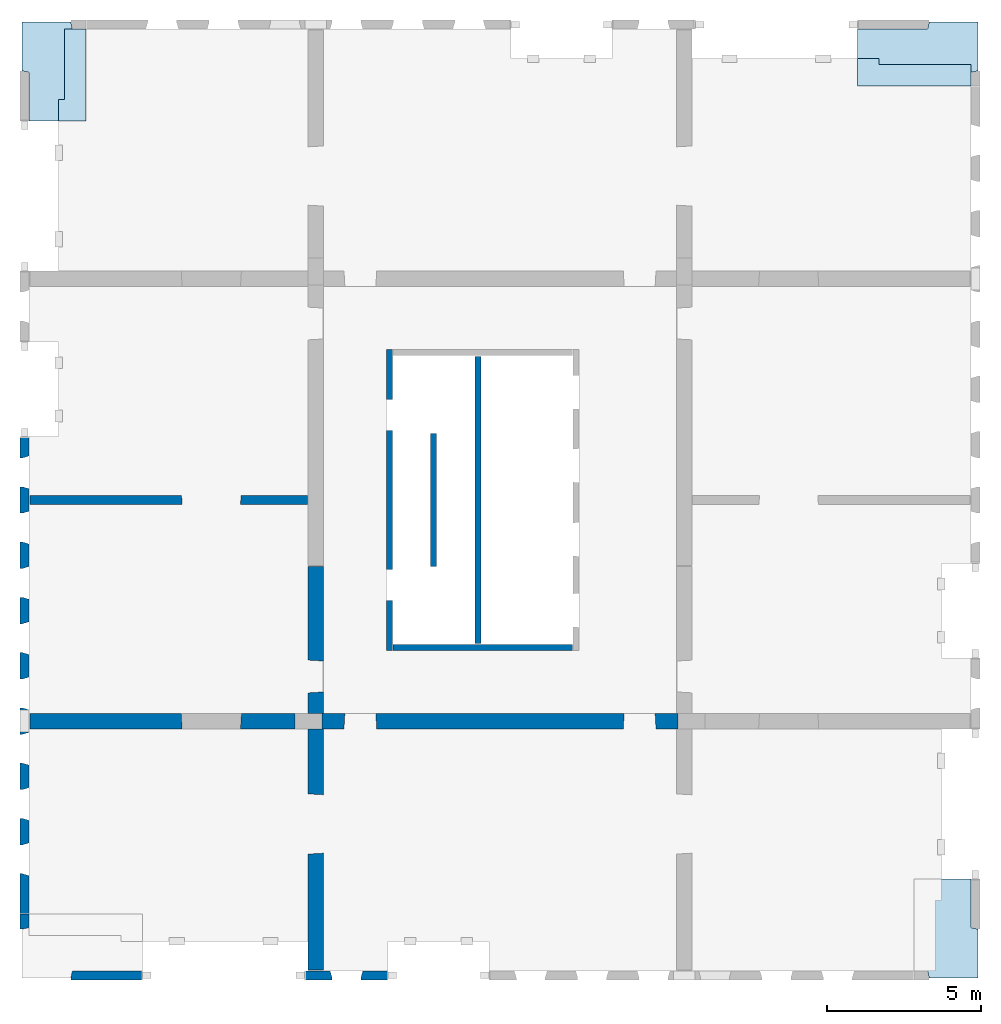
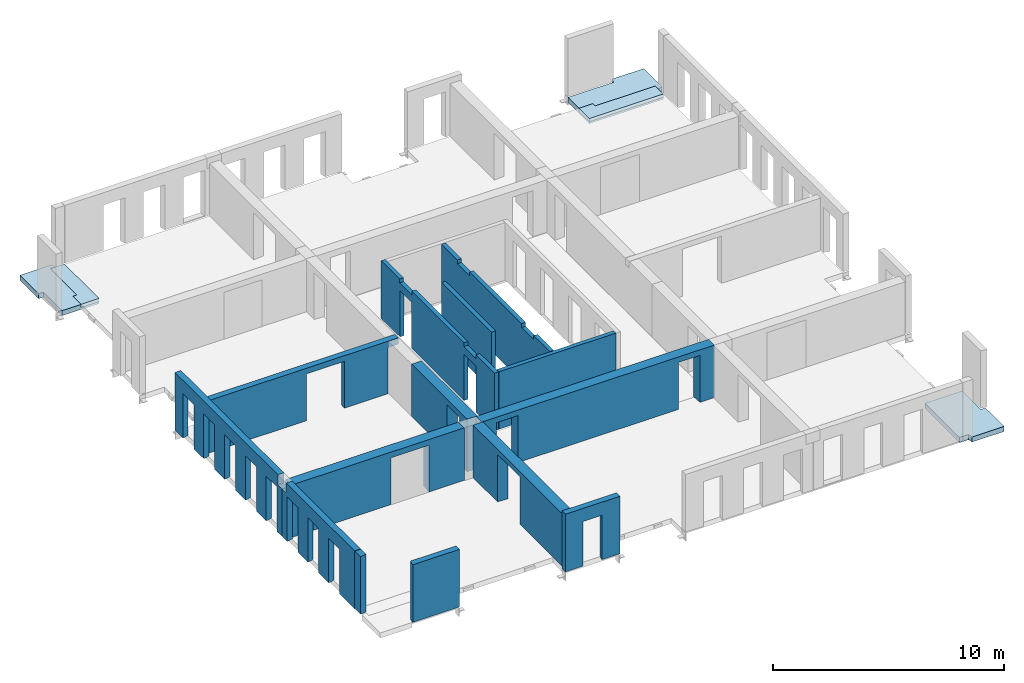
# One storey, part 2 of 4: 14 walls, 5 slabs, 32 openings.
"""IFC2X3 building model written with IfcOpenShell, lengths in millimetres."""

import ifcopenshell
import ifcopenshell.guid

model = None  # the IFC model being written
_history = None  # IfcOwnerHistory: only IFC2X3 demands one
_inside = {}  # id of a spatial element -> (the spatial element, [elements in it])
_under = {}  # id of a project, library or spatial element -> (it, [spatial elements below it])
_declared = {}  # id of a project -> (the project, [libraries it declares])
_typed = {}  # id of a type object -> (the type object, [elements of that type])
_made_of = {}  # id of a material, layer set ... -> (it, [elements and type objects made of it])


def new_model(schema):
    """Start an empty IFC model of exactly this schema.

    Asked for "IFC4X3", IfcOpenShell would pick the latest addendum, in which some entities
    have other attributes; the version numbers below select the first issue.
    IFC2X3 requires an IfcOwnerHistory on every rooted entity: one is made here for all.
    """
    global model, _history
    if schema == "IFC4X3":
        model = ifcopenshell.file(schema_version=(4, 3, 0, 0))
    else:
        model = ifcopenshell.file(schema=schema)
    _inside.clear()
    _under.clear()
    _declared.clear()
    _typed.clear()
    _made_of.clear()
    _history = None
    if model.schema == "IFC2X3":
        org = make("IfcOrganization", Name="unknown")
        user = make(
            "IfcPersonAndOrganization",
            ThePerson=make("IfcPerson", FamilyName="unknown"),
            TheOrganization=org,
        )
        app = make(
            "IfcApplication",
            ApplicationDeveloper=org,
            Version="unknown",
            ApplicationFullName="unknown",
            ApplicationIdentifier="unknown",
        )
        _history = make(
            "IfcOwnerHistory",
            OwningUser=user,
            OwningApplication=app,
            ChangeAction="ADDED",
            CreationDate=0,
        )
    return model


def make(cls, **values):
    """One entity of the class cls with the attributes given. An attribute that is None is left unset."""
    return model.create_entity(
        cls, **{name: value for name, value in values.items() if value is not None}
    )


def entity(cls, *values):
    """Any entity or typed value of the class cls, its attributes in the order of the schema. None: left unset."""
    e = model.create_entity(cls)
    for i, value in enumerate(values):
        if value is not None:
            e[i] = value
    return e


def rooted(cls, **values):
    """An entity with a GlobalId (a new one), such as an element, a storey or a relation."""
    return make(cls, GlobalId=ifcopenshell.guid.new(), OwnerHistory=_history, **values)


def si_unit(unit_type, name, prefix=None):
    """IfcSIUnit, for example si_unit("LENGTHUNIT", "METRE", prefix="MILLI")."""
    return make("IfcSIUnit", UnitType=unit_type, Prefix=prefix, Name=name)


def converted_unit(unit_type, name, factor, base, dimensions=None, offset=None):
    """IfcConversionBasedUnit, such as the inch: factor (a typed value) times the base unit."""
    return make(
        "IfcConversionBasedUnit"
        if offset is None
        else "IfcConversionBasedUnitWithOffset",
        ConversionOffset=offset,
        Dimensions=None
        if dimensions is None
        else entity("IfcDimensionalExponents", *dimensions),
        UnitType=unit_type,
        Name=name,
        ConversionFactor=make(
            "IfcMeasureWithUnit", ValueComponent=factor, UnitComponent=base
        ),
    )


def derived_unit(unit_type, elements):
    """IfcDerivedUnit: a product of units, each with its exponent."""
    return make(
        "IfcDerivedUnit",
        Elements=[
            make("IfcDerivedUnitElement", Unit=unit, Exponent=power)
            for unit, power in elements
        ],
        UnitType=unit_type,
    )


def assignment(units):
    """IfcUnitAssignment: the units of a project."""
    return None if units is None else make("IfcUnitAssignment", Units=units)


def point(xyz):
    """IfcCartesianPoint."""
    return None if xyz is None else make("IfcCartesianPoint", Coordinates=xyz)


def direction(xyz):
    """IfcDirection."""
    return None if xyz is None else make("IfcDirection", DirectionRatios=xyz)


def frame(location, z_axis=None, x_axis=None):
    """IfcAxis2Placement3D, a coordinate frame: its origin and axes. An axis left out is left unset."""
    return make(
        "IfcAxis2Placement3D",
        Location=point(location),
        Axis=direction(z_axis),
        RefDirection=direction(x_axis),
    )


def frame_2d(location, x_axis=None):
    """IfcAxis2Placement2D, a coordinate frame in the plane: its origin and x axis."""
    return make(
        "IfcAxis2Placement2D", Location=point(location), RefDirection=direction(x_axis)
    )


def origin():
    """The frame at (0, 0, 0) with its axes left unset."""
    return frame((0.0, 0.0, 0.0))


def place(relative_to, where):
    """IfcLocalPlacement: puts the frame where relative to a parent placement (None: the world)."""
    return make(
        "IfcLocalPlacement", PlacementRelTo=relative_to, RelativePlacement=where
    )


def context(
    kind, dimensions, precision=None, world=None, true_north=None, identifier=None
):
    """IfcGeometricRepresentationContext, for example the 3D "Model" context."""
    return make(
        "IfcGeometricRepresentationContext",
        ContextIdentifier=identifier,
        ContextType=kind,
        CoordinateSpaceDimension=dimensions,
        Precision=precision,
        WorldCoordinateSystem=world,
        TrueNorth=true_north,
    )


def subcontext(parent, identifier, kind, view, scale=None):
    """IfcGeometricRepresentationSubContext, for example "Body" below "Model"."""
    return make(
        "IfcGeometricRepresentationSubContext",
        ContextIdentifier=identifier,
        ContextType=kind,
        ParentContext=parent,
        TargetScale=scale,
        TargetView=view,
    )


def project(units=None, contexts=None):
    """IfcProject with its units and contexts."""
    return rooted(
        "IfcProject",
        Name="project",
        RepresentationContexts=contexts,
        UnitsInContext=assignment(units),
    )


def spatial(cls, under=None, at=None, **own):
    """A site, building, storey or space (cls), placed at a placement, below another one or the project."""
    s = rooted(cls, ObjectPlacement=at, **own)
    if under is not None:
        _under.setdefault(under.id(), (under, []))[1].append(s)
    return s


def polyline(points):
    """IfcPolyline through the points."""
    return make("IfcPolyline", Points=[point(p) for p in points])


def profile(cls, at=None, kind="AREA", **sizes):
    """A parametric profile (cls). Its sizes go by their IFC names, for example OverallWidth=200.0."""
    return make(cls, ProfileType=kind, Position=at, **sizes)


def rectangle(**sizes):
    """IfcRectangleProfileDef."""
    return profile("IfcRectangleProfileDef", **sizes)


def outline(outer, holes=None, kind="AREA"):
    """IfcArbitraryClosedProfileDef: a profile drawn as a closed curve; with holes, ...WithVoids."""
    if holes is None:
        return make("IfcArbitraryClosedProfileDef", ProfileType=kind, OuterCurve=outer)
    return make(
        "IfcArbitraryProfileDefWithVoids",
        ProfileType=kind,
        OuterCurve=outer,
        InnerCurves=holes,
    )


def extrude(swept, where, along, depth):
    """IfcExtrudedAreaSolid: the profile swept, set in the frame where, extruded along a direction by depth."""
    return make(
        "IfcExtrudedAreaSolid",
        SweptArea=swept,
        Position=where,
        ExtrudedDirection=direction(along),
        Depth=depth,
    )


def faces_of(points, faces, orient=None, outer=None):
    """IfcFace entities. A face is a list of loops; a loop is a list of indices into points, from 0.

    orient and outer hold one flag for each loop. By default every Orientation is true, the
    first loop of a face is its IfcFaceOuterBound and the others are IfcFaceBound.
    """
    made = []
    for i, loops in enumerate(faces):
        bounds = []
        for j, loop in enumerate(loops):
            is_outer = j == 0 if outer is None else outer[i][j]
            bounds.append(
                make(
                    "IfcFaceOuterBound" if is_outer else "IfcFaceBound",
                    Bound=make("IfcPolyLoop", Polygon=[points[k] for k in loop]),
                    Orientation=True if orient is None else orient[i][j],
                )
            )
        made.append(make("IfcFace", Bounds=bounds))
    return made


def faceted_brep(points, faces, orient=None, outer=None, voids=None):
    """IfcFacetedBrep: a solid bounded by flat faces; with voids (closed shells), ...WithVoids."""
    shared = [point(p) for p in points]
    hull = make("IfcClosedShell", CfsFaces=faces_of(shared, faces, orient, outer))
    if voids is None:
        return make("IfcFacetedBrep", Outer=hull)
    return make(
        "IfcFacetedBrepWithVoids",
        Outer=hull,
        Voids=[
            make(cls, CfsFaces=faces_of(shared, fs, o, b)) for cls, fs, o, b in voids
        ],
    )


def shape(context_of_items, identifier, shape_type, items):
    """IfcShapeRepresentation: the items that make up one representation, for example the "Body"."""
    return make(
        "IfcShapeRepresentation",
        ContextOfItems=context_of_items,
        RepresentationIdentifier=identifier,
        RepresentationType=shape_type,
        Items=items,
    )


def material(Name=None, Category=None):
    """IfcMaterial."""
    return make("IfcMaterial", Name=Name, Category=Category)


def layer(
    of_material, thickness, ventilated=None, Name=None, Category=None, Priority=None
):
    """IfcMaterialLayer: one layer of a wall or slab, of a material (None: an air gap)."""
    return make(
        "IfcMaterialLayer",
        Material=of_material,
        LayerThickness=thickness,
        IsVentilated=ventilated,
        Name=Name,
        Category=Category,
        Priority=Priority,
    )


def layer_set(layers, Name=None):
    """IfcMaterialLayerSet."""
    return make("IfcMaterialLayerSet", MaterialLayers=layers, LayerSetName=Name)


def layer_usage(for_layer_set, set_direction, sense, offset, extent=None):
    """IfcMaterialLayerSetUsage: how a layer set lies in its element."""
    return make(
        "IfcMaterialLayerSetUsage",
        ForLayerSet=for_layer_set,
        LayerSetDirection=set_direction,
        DirectionSense=sense,
        OffsetFromReferenceLine=offset,
        ReferenceExtent=extent,
    )


def made_of(thing, what):
    """Note that an element or type object is made of a material, layer set ...; save() writes the relation."""
    if what is not None:
        _made_of.setdefault(what.id(), (what, []))[1].append(thing)
    return thing


def type_object(cls, material=None, **own):
    """A type object (cls), such as IfcWallType, which elements share."""
    return made_of(rooted(cls, **own), material)


def element(
    cls,
    number,
    at=None,
    inside=None,
    cuts=None,
    type_object=None,
    material=None,
    context=None,
    identifier="Body",
    shape_type=None,
    held_by="IfcProductDefinitionShape",
    body=None,
    shapes=None,
    **own,
):
    """One element of the class cls, such as IfcWall. Its Tag is "e" and its number.

    at: its placement. inside: the storey or other place that contains it. cuts: it is an
    opening in that element (IfcRelVoidsElement). A single representation is given by context,
    identifier, shape_type and body (its items); several are given by shapes. held_by: the class
    of the entity that holds the representations. save() writes the other relations.
    """
    e = rooted(cls, Tag="e%d" % number, ObjectPlacement=at, **own)
    if body is not None:
        shapes = [shape(context, identifier, shape_type, body)]
    if shapes is not None:
        e.Representation = make(held_by, Representations=shapes)
    if inside is not None:
        _inside.setdefault(inside.id(), (inside, []))[1].append(e)
    if cuts is not None:
        rooted(
            "IfcRelVoidsElement", RelatingBuildingElement=cuts, RelatedOpeningElement=e
        )
    if type_object is not None:
        _typed.setdefault(type_object.id(), (type_object, []))[1].append(e)
    return made_of(e, material)


def aggregate(whole, parts):
    """IfcRelAggregates: a whole, such as a stair, and the parts it consists of."""
    return rooted("IfcRelAggregates", RelatingObject=whole, RelatedObjects=parts)


def save(model, path):
    """Write the relations noted so far, then the file.

    IfcRelAggregates (storeys below a building ...), IfcRelContainedInSpatialStructure (elements
    in a storey), IfcRelDefinesByType, IfcRelAssociatesMaterial and IfcRelDeclares: one each for
    every whole, place, type object, material and project.
    """
    for whole, parts in _under.values():
        aggregate(whole, parts)
    for where, things in _inside.values():
        rooted(
            "IfcRelContainedInSpatialStructure",
            RelatedElements=things,
            RelatingStructure=where,
        )
    for kind, things in _typed.values():
        rooted("IfcRelDefinesByType", RelatedObjects=things, RelatingType=kind)
    for what, things in _made_of.values():
        rooted("IfcRelAssociatesMaterial", RelatedObjects=things, RelatingMaterial=what)
    for by, libraries in _declared.values():
        rooted("IfcRelDeclares", RelatingContext=by, RelatedDefinitions=libraries)
    model.write(path)


model = new_model("IFC2X3")

# Units and contexts
model_context = context("Model", 3, precision=0.01, world=origin(), true_north=direction((6.12303176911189e-17, 1.0)))
body_context = subcontext(model_context, "Body", "Model", "MODEL_VIEW")
ifc_project = project(units=[si_unit("LENGTHUNIT", "METRE", prefix="MILLI"), si_unit("AREAUNIT", "SQUARE_METRE"), si_unit("VOLUMEUNIT", "CUBIC_METRE"), converted_unit("PLANEANGLEUNIT", "DEGREE", entity("IfcRatioMeasure", 0.0174532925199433), si_unit("PLANEANGLEUNIT", "RADIAN"), dimensions=[0, 0, 0, 0, 0, 0, 0]), si_unit("MASSUNIT", "GRAM", prefix="KILO"), derived_unit("MASSDENSITYUNIT", [(si_unit("MASSUNIT", "GRAM", prefix="KILO"), 1), (si_unit("LENGTHUNIT", "METRE"), -3)]), si_unit("TIMEUNIT", "SECOND"), si_unit("FREQUENCYUNIT", "HERTZ"), si_unit("THERMODYNAMICTEMPERATUREUNIT", "DEGREE_CELSIUS"), derived_unit("THERMALTRANSMITTANCEUNIT", [(si_unit("MASSUNIT", "GRAM", prefix="KILO"), 1), (si_unit("THERMODYNAMICTEMPERATUREUNIT", "KELVIN"), -1), (si_unit("TIMEUNIT", "SECOND"), -3)]), derived_unit("VOLUMETRICFLOWRATEUNIT", [(si_unit("LENGTHUNIT", "METRE"), 3), (si_unit("TIMEUNIT", "SECOND"), -1)]), si_unit("ELECTRICCURRENTUNIT", "AMPERE"), si_unit("ELECTRICVOLTAGEUNIT", "VOLT"), si_unit("POWERUNIT", "WATT"), si_unit("FORCEUNIT", "NEWTON", prefix="KILO"), si_unit("ILLUMINANCEUNIT", "LUX"), si_unit("LUMINOUSFLUXUNIT", "LUMEN"), si_unit("LUMINOUSINTENSITYUNIT", "CANDELA"), derived_unit("USERDEFINED", [(si_unit("MASSUNIT", "GRAM", prefix="KILO"), -1), (si_unit("LENGTHUNIT", "METRE"), -2), (si_unit("TIMEUNIT", "SECOND"), 3), (si_unit("LUMINOUSFLUXUNIT", "LUMEN"), 1)]), derived_unit("LINEARVELOCITYUNIT", [(si_unit("LENGTHUNIT", "METRE"), 1), (si_unit("TIMEUNIT", "SECOND"), -1)]), si_unit("PRESSUREUNIT", "PASCAL"), derived_unit("USERDEFINED", [(si_unit("LENGTHUNIT", "METRE"), -2), (si_unit("MASSUNIT", "GRAM", prefix="KILO"), 1), (si_unit("TIMEUNIT", "SECOND"), -2)])], contexts=[model_context])

# Site, building, storey
site_placement = place(None, origin())
site = spatial("IfcSite", under=ifc_project, at=site_placement, Name="Default", CompositionType="ELEMENT")
building_placement = place(site_placement, origin())
building = spatial("IfcBuilding", under=site, at=building_placement, Name="niet gebruiken", CompositionType="ELEMENT")
storey_placement = place(building_placement, frame((0.0, 0.0, 54720.0)))
storey = spatial("IfcBuildingStorey", under=building, at=storey_placement, Name="17 zeventiende verdieping", CompositionType="ELEMENT", Elevation=54720.0)

# Slabs
ifc_material_1 = material(Name="NLRS_f2_beton prefab")
ifc_layer_1 = layer(ifc_material_1, 270.0)
ifc_layer_set_1 = layer_set([ifc_layer_1], Name="Floor:NLRS_23.22_FL_beton prefab d=270 3D element_gen")
ifc_layer_usage_1 = layer_usage(ifc_layer_set_1, "AXIS3", "POSITIVE", 0.0)
slab_1_placement = place(storey_placement, origin())
element("IfcSlab", 1, at=slab_1_placement, inside=storey, material=ifc_layer_usage_1, Name="Floor:NLRS_23.22_FL_beton prefab d=270 3D element_gen", ObjectType="Floor:NLRS_23.22_FL_beton prefab d=270 3D element_gen", PredefinedType="LANDING", context=body_context, shape_type="SweptSolid", body=[
    extrude(outline(polyline([(-322.675940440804, -982.471394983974), (1267.47139498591, -982.471394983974), (1267.47139498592, 607.675940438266), (1034.47139498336, 655.152429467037), (1034.47139498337, 1100.5286050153), (-1955.52860501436, 1100.52860501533), (-1955.52860501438, -749.471394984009), (-370.152429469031, -749.471394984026), (-322.675940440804, -982.471394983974)])), frame((127169.471394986, 31795.5286050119, -90.0), z_axis=(0.0, 0.0, -1.0), x_axis=(0.0, 1.0, 0.0)), (0.0, 0.0, 1.0), 269.999999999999),
])
ifc_material_2 = material(Name="NLRS_f2_beton ihwg")
ifc_layer_2 = layer(ifc_material_2, 170.0)
ifc_layer_set_2 = layer_set([ifc_layer_2], Name="Floor:NLRS_23.21_FL_beton ihwg d=170_gen")
ifc_layer_usage_2 = layer_usage(ifc_layer_set_2, "AXIS3", "POSITIVE", 0.0)
slab_2_placement = place(storey_placement, origin())
element("IfcSlab", 2, at=slab_2_placement, inside=storey, material=ifc_layer_usage_2, Name="Floor:NLRS_23.21_FL_beton ihwg d=170_gen", ObjectType="Floor:NLRS_23.21_FL_beton ihwg d=170_gen", PredefinedType="FLOOR", context=body_context, shape_type="SweptSolid", body=[
    extrude(outline(polyline([(-1230.0, -366.666666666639), (-530.0, -366.666666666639), (-530.0, -166.66666666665), (1760.0, -166.666666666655), (1760.0, 533.333333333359), (-1230.0, 533.333333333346), (-1230.0, -366.666666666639)])), frame((127736.666666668, 31070.0, -90.0), z_axis=(0.0, 0.0, -1.0), x_axis=(0.0, 1.0, 0.0)), (0.0, 0.0, 1.0), 169.999999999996),
])
ifc_layer_usage_3 = layer_usage(ifc_layer_set_1, "AXIS3", "POSITIVE", 0.0)
slab_3_placement = place(storey_placement, origin())
element("IfcSlab", 3, at=slab_3_placement, inside=storey, material=ifc_layer_usage_3, Name="Floor:NLRS_23.22_FL_beton prefab d=270 3D element_gen", ObjectType="Floor:NLRS_23.22_FL_beton prefab d=270 3D element_gen", PredefinedType="LANDING", context=body_context, shape_type="SweptSolid", body=[
    extrude(outline(polyline([(-1034.47139498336, -1100.52860501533), (1955.52860501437, -1100.52860501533), (1955.52860501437, 749.471394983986), (370.152429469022, 749.471394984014), (322.675940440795, 982.471394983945), (-1267.47139498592, 982.471394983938), (-1267.47139498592, -607.675940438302), (-1034.47139498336, -655.152429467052), (-1034.47139498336, -1100.52860501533)])), frame((156330.528605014, 3204.47139498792, -90.0), z_axis=(0.0, 0.0, -1.0), x_axis=(0.0, 1.0, 0.0)), (0.0, 0.0, 1.0), 269.999999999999),
])
ifc_layer_usage_4 = layer_usage(ifc_layer_set_1, "AXIS3", "POSITIVE", 0.0)
slab_4_placement = place(storey_placement, origin())
element("IfcSlab", 4, at=slab_4_placement, inside=storey, material=ifc_layer_usage_4, Name="Floor:NLRS_23.22_FL_beton prefab d=270 3D element_gen", ObjectType="Floor:NLRS_23.22_FL_beton prefab d=270 3D element_gen", PredefinedType="LANDING", context=body_context, shape_type="SweptSolid", body=[
    extrude(outline(polyline([(-1100.52860501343, -2480.52860501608), (749.471394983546, -2480.52860501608), (749.471394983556, -195.152429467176), (982.471394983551, -147.675940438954), (982.471394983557, 1442.47139498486), (-607.675940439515, 1442.47139498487), (-655.152429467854, 1209.47139498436), (-1100.52860501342, 1209.47139498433), (-1100.52860501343, -2480.52860501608)])), frame((155870.528605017, 32080.5286050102, -90.0), z_axis=(0.0, 0.0, -1.0), x_axis=(0.0, 1.0, 0.0)), (0.0, 0.0, 1.0), 269.999999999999),
])
ifc_layer_usage_5 = layer_usage(ifc_layer_set_2, "AXIS3", "POSITIVE", 0.0)
slab_5_placement = place(storey_placement, origin())
element("IfcSlab", 5, at=slab_5_placement, inside=storey, material=ifc_layer_usage_5, Name="Floor:NLRS_23.21_FL_beton ihwg d=170_gen", ObjectType="Floor:NLRS_23.21_FL_beton ihwg d=170_gen", PredefinedType="FLOOR", context=body_context, shape_type="SweptSolid", body=[
    extrude(outline(polyline([(-533.333333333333, -1463.33333333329), (366.666666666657, -1463.33333333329), (366.666666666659, -763.333333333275), (166.66666666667, -763.333333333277), (166.666666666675, 2226.66666666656), (-533.333333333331, 2226.66666666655), (-533.333333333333, -1463.33333333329)])), frame((154853.333333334, 31513.3333333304, -90.0), z_axis=(0.0, 0.0, -1.0), x_axis=(0.0, 1.0, 0.0)), (0.0, 0.0, 1.0), 169.999999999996),
])

# Wall, openings
ifc_layer_3 = layer(ifc_material_1, 200.0)
ifc_layer_set_3 = layer_set([ifc_layer_3], Name="Basic Wall:NLRS_22.21_WA_beton prefab d=200_gen")
ifc_layer_usage_6 = layer_usage(ifc_layer_set_3, "AXIS2", "NEGATIVE", 100.0)
wall_type_1 = type_object("IfcWallType", Name="Basic Wall:NLRS_22.21_WA_beton prefab d=200_gen", PredefinedType="STANDARD", material=ifc_layer_set_3)
wall_1_placement = place(storey_placement, frame((138150.0, 22400.0, -50.0), z_axis=(0.0, 0.0, 1.0), x_axis=(0.0, -1.0, 0.0)))
wall_1 = element("IfcWallStandardCase", 6, at=wall_1_placement, inside=storey, type_object=wall_type_1, material=ifc_layer_usage_6, Name="Basic Wall:NLRS_22.21_WA_beton prefab d=200_gen", ObjectType="Basic Wall:NLRS_22.21_WA_beton prefab d=200_gen", context=body_context, shape_type="SweptSolid", body=[
    extrude(rectangle(XDim=9800.0, YDim=199.999999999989, at=frame_2d((4900.0, 3.76587649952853e-13), x_axis=(-1.0, 0.0))), origin(), (0.0, 0.0, 1.0), 3040.0),
])
opening_1_placement = place(wall_1_placement, origin())
element("IfcOpeningElement", 7, at=opening_1_placement, cuts=wall_1, Name="Basic Wall:NLRS_22.21_WA_beton prefab d=200_gen", ObjectType="Opening", context=body_context, shape_type="SweptSolid", body=[
    extrude(rectangle(XDim=199.999999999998, YDim=1044.0, at=frame_2d((4.33431068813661e-12, 0.0), x_axis=(1.0, 0.0))), frame((7672.0, -100.0, 2940.0), z_axis=(0.0, 1.0, 0.0), x_axis=(0.0, 0.0, -1.0)), (0.0, 0.0, 1.0), 199.999999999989),
])
opening_2_placement = place(wall_1_placement, origin())
element("IfcOpeningElement", 8, at=opening_2_placement, cuts=wall_1, Name="Basic Wall:NLRS_22.21_WA_beton prefab d=200_gen", ObjectType="Opening", context=body_context, shape_type="SweptSolid", body=[
    extrude(rectangle(XDim=199.999999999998, YDim=1044.0, at=frame_2d((4.33431068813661e-12, 2.1600499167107e-12), x_axis=(1.0, 0.0))), frame((2128.0, -100.0, 2940.0), z_axis=(0.0, 1.0, 0.0), x_axis=(0.0, 0.0, -1.0)), (0.0, 0.0, 1.0), 199.999999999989),
])
opening_3_placement = place(wall_1_placement, origin())
element("IfcOpeningElement", 9, at=opening_3_placement, cuts=wall_1, Name="Basic Wall:NLRS_22.21_WA_beton prefab d=200_gen", ObjectType="Opening", context=body_context, shape_type="SweptSolid", body=[
    extrude(rectangle(XDim=2435.00000000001, YDim=1015.99999999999, at=frame_2d((4.32009983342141e-12, 1.10844666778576e-12), x_axis=(1.0, 0.0))), frame((7672.0, -100.0, 1217.50000000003), z_axis=(0.0, 1.0, 0.0), x_axis=(0.0, 0.0, -1.0)), (0.0, 0.0, 1.0), 199.999999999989),
])
opening_4_placement = place(wall_1_placement, origin())
element("IfcOpeningElement", 10, at=opening_4_placement, cuts=wall_1, Name="Basic Wall:NLRS_22.21_WA_beton prefab d=200_gen", ObjectType="Opening", context=body_context, shape_type="SweptSolid", body=[
    extrude(rectangle(XDim=2435.00000000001, YDim=1015.99999999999, at=frame_2d((4.32009983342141e-12, -2.18847162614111e-12), x_axis=(1.0, 0.0))), frame((2128.0, -100.0, 1217.50000000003), z_axis=(0.0, 1.0, 0.0), x_axis=(0.0, 0.0, -1.0)), (0.0, 0.0, 1.0), 199.999999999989),
])

ifc_layer_usage_7 = layer_usage(ifc_layer_set_3, "AXIS2", "NEGATIVE", 100.0)
wall_2_placement = place(storey_placement, frame((141030.0, 22180.0, -50.0), z_axis=(0.0, 0.0, 1.0), x_axis=(0.0, -1.0, 0.0)))
wall_2 = element("IfcWallStandardCase", 11, at=wall_2_placement, inside=storey, type_object=wall_type_1, material=ifc_layer_usage_7, Name="Basic Wall:NLRS_22.21_WA_beton prefab d=200_gen", ObjectType="Basic Wall:NLRS_22.21_WA_beton prefab d=200_gen", context=body_context, shape_type="SweptSolid", body=[
    extrude(rectangle(XDim=9360.0, YDim=199.999999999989, at=frame_2d((4680.0, -2.8421709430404e-14), x_axis=(-1.0, 0.0))), origin(), (0.0, 0.0, 1.0), 3040.0),
])
opening_5_placement = place(wall_2_placement, origin())
element("IfcOpeningElement", 12, at=opening_5_placement, cuts=wall_2, Name="Basic Wall:NLRS_22.21_WA_beton prefab d=200_gen", ObjectType="Opening", context=body_context, shape_type="SweptSolid", body=[
    extrude(rectangle(XDim=70.0000000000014, YDim=1044.00000000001, at=frame_2d((-8.66506866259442e-12, 0.0), x_axis=(1.0, 0.0))), frame((7452.0, -100.0, 35.0), z_axis=(0.0, 1.0, 0.0), x_axis=(0.0, 0.0, -1.0)), (0.0, 0.0, 1.0), 199.999999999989),
])
opening_6_placement = place(wall_2_placement, origin())
element("IfcOpeningElement", 13, at=opening_6_placement, cuts=wall_2, Name="Basic Wall:NLRS_22.21_WA_beton prefab d=200_gen", ObjectType="Opening", context=body_context, shape_type="SweptSolid", body=[
    extrude(rectangle(XDim=70.0000000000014, YDim=1044.00000000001, at=frame_2d((-8.66506866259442e-12, 0.0), x_axis=(1.0, 0.0))), frame((1908.0, -100.0, 35.0), z_axis=(0.0, 1.0, 0.0), x_axis=(0.0, 0.0, -1.0)), (0.0, 0.0, 1.0), 199.999999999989),
])
opening_7_placement = place(wall_2_placement, origin())
element("IfcOpeningElement", 14, at=opening_7_placement, cuts=wall_2, Name="Basic Wall:NLRS_22.21_WA_beton prefab d=200_gen", ObjectType="Opening", context=body_context, shape_type="SweptSolid", body=[
    extrude(rectangle(XDim=199.999999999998, YDim=1044.00000000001, at=frame_2d((4.33431068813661e-12, 0.0), x_axis=(1.0, 0.0))), frame((1908.0, -100.0, 2940.0), z_axis=(0.0, 1.0, 0.0), x_axis=(0.0, 0.0, -1.0)), (0.0, 0.0, 1.0), 199.999999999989),
])
opening_8_placement = place(wall_2_placement, origin())
element("IfcOpeningElement", 15, at=opening_8_placement, cuts=wall_2, Name="Basic Wall:NLRS_22.21_WA_beton prefab d=200_gen", ObjectType="Opening", context=body_context, shape_type="SweptSolid", body=[
    extrude(rectangle(XDim=199.999999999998, YDim=1044.00000000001, at=frame_2d((4.33431068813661e-12, 0.0), x_axis=(1.0, 0.0))), frame((7452.0, -100.0, 2940.0), z_axis=(0.0, 1.0, 0.0), x_axis=(0.0, 0.0, -1.0)), (0.0, 0.0, 1.0), 199.999999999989),
])
opening_9_placement = place(wall_2_placement, origin())
element("IfcOpeningElement", 16, at=opening_9_placement, cuts=wall_2, Name="Basic Wall:NLRS_22.21_WA_beton prefab d=200_gen", ObjectType="Recess", context=body_context, shape_type="SweptSolid", body=[
    extrude(rectangle(XDim=399.999999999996, YDim=280.000000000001, at=frame_2d((-2.1600499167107e-12, 0.0), x_axis=(0.0, 1.0))), frame((770.0, -60.0, 438.0), z_axis=(0.0, 1.0, 0.0), x_axis=(1.0, 0.0, 0.0)), (0.0, 0.0, 1.0), 159.999999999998),
])
opening_10_placement = place(wall_2_placement, origin())
element("IfcOpeningElement", 17, at=opening_10_placement, cuts=wall_2, Name="Basic Wall:NLRS_22.21_WA_beton prefab d=200_gen", ObjectType="Recess", context=body_context, shape_type="SweptSolid", body=[
    extrude(rectangle(XDim=399.999999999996, YDim=280.000000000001, at=frame_2d((-2.1600499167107e-12, 0.0), x_axis=(0.0, 1.0))), frame((1570.0, -60.0, 438.0), z_axis=(0.0, 1.0, 0.0), x_axis=(1.0, 0.0, 0.0)), (0.0, 0.0, 1.0), 159.999999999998),
])
opening_11_placement = place(wall_2_placement, origin())
element("IfcOpeningElement", 18, at=opening_11_placement, cuts=wall_2, Name="Basic Wall:NLRS_22.21_WA_beton prefab d=200_gen", ObjectType="Recess", context=body_context, shape_type="SweptSolid", body=[
    extrude(rectangle(XDim=399.999999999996, YDim=279.999999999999, at=frame_2d((-1.08002495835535e-12, 0.0), x_axis=(0.0, 1.0))), frame((3160.0, -60.0, 438.0), z_axis=(0.0, 1.0, 0.0), x_axis=(1.0, 0.0, 0.0)), (0.0, 0.0, 1.0), 159.999999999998),
])
opening_12_placement = place(wall_2_placement, origin())
element("IfcOpeningElement", 19, at=opening_12_placement, cuts=wall_2, Name="Basic Wall:NLRS_22.21_WA_beton prefab d=200_gen", ObjectType="Recess", context=body_context, shape_type="SweptSolid", body=[
    extrude(rectangle(XDim=399.999999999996, YDim=279.999999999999, at=frame_2d((1.08002495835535e-12, 0.0), x_axis=(0.0, 1.0))), frame((3960.0, -60.0, 438.0), z_axis=(0.0, 1.0, 0.0), x_axis=(1.0, 0.0, 0.0)), (0.0, 0.0, 1.0), 159.999999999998),
])

# Walls
ifc_layer_usage_8 = layer_usage(ifc_layer_set_3, "AXIS2", "NEGATIVE", 100.0)
wall_3_placement = place(storey_placement, frame((139590.0, 19660.0, -50.0), z_axis=(0.0, 0.0, 1.0), x_axis=(0.0, -1.0, 0.0)))
element("IfcWallStandardCase", 20, at=wall_3_placement, inside=storey, type_object=wall_type_1, material=ifc_layer_usage_8, Name="Basic Wall:NLRS_22.21_WA_beton prefab d=200_gen", ObjectType="Basic Wall:NLRS_22.21_WA_beton prefab d=200_gen", context=body_context, shape_type="SweptSolid", body=[
    extrude(rectangle(XDim=4320.00000000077, YDim=199.999999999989, at=frame_2d((2160.00000000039, 0.0), x_axis=(-1.0, 0.0))), origin(), (0.0, 0.0, 1.0), 3040.0),
])
ifc_layer_usage_9 = layer_usage(ifc_layer_set_3, "AXIS2", "NEGATIVE", 100.0)
wall_4_placement = place(storey_placement, frame((138270.0, 12700.0, -50.0)))
element("IfcWallStandardCase", 21, at=wall_4_placement, inside=storey, type_object=wall_type_1, material=ifc_layer_usage_9, Name="Basic Wall:NLRS_22.21_WA_beton prefab d=200_gen", ObjectType="Basic Wall:NLRS_22.21_WA_beton prefab d=200_gen", context=body_context, shape_type="SweptSolid", body=[
    extrude(rectangle(XDim=5839.99999999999, YDim=199.999999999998, at=frame_2d((2919.99999999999, -6.82121026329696e-13), x_axis=(-1.0, 0.0))), origin(), (0.0, 0.0, 1.0), 3040.0),
])

# Wall, openings
ifc_layer_4 = layer(ifc_material_1, 300.0)
ifc_layer_set_4 = layer_set([ifc_layer_4], Name="Basic Wall:NLRS_22.21_WA_beton prefab d=300_gen")
ifc_layer_usage_10 = layer_usage(ifc_layer_set_4, "AXIS2", "NEGATIVE", 150.0)
wall_type_2 = type_object("IfcWallType", Name="Basic Wall:NLRS_22.21_WA_beton prefab d=300_gen", PredefinedType="STANDARD", material=ifc_layer_set_4)
wall_5_placement = place(storey_placement, frame((126440.0, 17500.0, -70.0)))
wall_5 = element("IfcWallStandardCase", 22, at=wall_5_placement, inside=storey, type_object=wall_type_2, material=ifc_layer_usage_10, Name="Basic Wall:NLRS_22.21_WA_beton prefab d=300_gen", ObjectType="Basic Wall:NLRS_22.21_WA_beton prefab d=300_gen", context=body_context, shape_type="SweptSolid", body=[
    extrude(rectangle(XDim=9559.9999999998, YDim=300.000000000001, at=frame_2d((4779.9999999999, -4.2632564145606e-14), x_axis=(-1.0, 0.0))), origin(), (0.0, 0.0, 1.0), 2769.99999999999),
])
opening_13_placement = place(wall_5_placement, frame((4942.0, -150.0, 0.0)))
element("IfcOpeningElement", 23, at=opening_13_placement, cuts=wall_5, Name="Basic Wall:NLRS_22.21_WA_beton prefab d=300_gen", ObjectType="Opening", context=body_context, shape_type="Brep", body=[
    faceted_brep([(1918.0, 0.0, 2470.0), (18.0, 0.0, 2470.0), (18.0, 0.0, 0.0), (1918.0, 0.0, 0.0), (1936.0, 300.0, 2488.0), (1936.0, 300.0, 0.0), (0.0, 300.0, 0.0), (0.0, 300.0, 2488.0)], [[[0, 1, 2, 3]], [[4, 5, 6, 7]], [[4, 7, 1, 0]], [[7, 6, 2, 1]], [[6, 5, 3, 2]], [[5, 4, 0, 3]]]),
])
opening_14_placement = place(wall_5_placement, origin())
element("IfcOpeningElement", 24, at=opening_14_placement, cuts=wall_5, Name="Basic Wall:NLRS_22.21_WA_beton prefab d=300_gen", ObjectType="Opening", context=body_context, shape_type="SweptSolid", body=[
    extrude(rectangle(XDim=2440.0, YDim=520.000000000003, at=frame_2d((8.64019966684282e-12, 0.0), x_axis=(0.0, 1.0))), frame((9300.0, 150.0, 1220.0), z_axis=(0.0, -1.0, 0.0), x_axis=(1.0, 0.0, 0.0)), (0.0, 0.0, 1.0), 300.0),
])

# Wall, opening
ifc_layer_5 = layer(ifc_material_1, 500.0)
ifc_layer_set_5 = layer_set([ifc_layer_5], Name="Basic Wall:NLRS_22.21_WA_beton prefab d=500_gen")
ifc_layer_usage_11 = layer_usage(ifc_layer_set_5, "AXIS2", "NEGATIVE", 250.0)
wall_type_3 = type_object("IfcWallType", Name="Basic Wall:NLRS_22.21_WA_beton prefab d=500_gen", PredefinedType="STANDARD", material=ifc_layer_set_5)
wall_6_placement = place(storey_placement, frame((135750.0, 10050.0115507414, -70.0), z_axis=(0.0, 0.0, 1.0), x_axis=(0.0, -1.0, 0.0)))
wall_6 = element("IfcWallStandardCase", 25, at=wall_6_placement, inside=storey, type_object=wall_type_3, material=ifc_layer_usage_11, Name="Basic Wall:NLRS_22.21_WA_beton prefab d=500_gen", ObjectType="Basic Wall:NLRS_22.21_WA_beton prefab d=500_gen", context=body_context, shape_type="SweptSolid", body=[
    extrude(rectangle(XDim=7860.01155074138, YDim=499.99999999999, at=frame_2d((3930.00577537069, 8.5265128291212e-14), x_axis=(-1.0, 0.0))), origin(), (0.0, 0.0, 1.0), 2769.99999999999),
])
opening_15_placement = place(wall_6_placement, frame((4080.01155074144, -250.0, 0.0)))
element("IfcOpeningElement", 26, at=opening_15_placement, cuts=wall_6, Name="Basic Wall:NLRS_22.21_WA_beton prefab d=500_gen", ObjectType="Opening", context=body_context, shape_type="Brep", body=[
    faceted_brep([(-30.0, 500.0, 2470.0), (-30.0, 500.0, 0.0), (-1930.0, 500.0, 0.0), (-1930.0, 500.0, 2470.0), (0.0, 0.0, 2500.0), (-1960.0, 0.0, 2500.0), (-1960.0, 0.0, 0.0), (0.0, 0.0, 0.0)], [[[0, 1, 2, 3]], [[4, 5, 6, 7]], [[4, 0, 3, 5]], [[5, 3, 2, 6]], [[6, 2, 1, 7]], [[7, 1, 0, 4]]]),
])

# Wall, openings
ifc_layer_usage_12 = layer_usage(ifc_layer_set_5, "AXIS2", "NEGATIVE", 250.0)
wall_7_placement = place(storey_placement, frame((135950.003540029, 10300.0, -70.0)))
wall_7 = element("IfcWallStandardCase", 27, at=wall_7_placement, inside=storey, type_object=wall_type_3, material=ifc_layer_usage_12, Name="Basic Wall:NLRS_22.21_WA_beton prefab d=500_gen", ObjectType="Basic Wall:NLRS_22.21_WA_beton prefab d=500_gen", context=body_context, shape_type="SweptSolid", body=[
    extrude(rectangle(XDim=11599.9964599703, YDim=499.999999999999, at=frame_2d((5799.99822998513, 1.4210854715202e-13), x_axis=(-1.0, 0.0))), origin(), (0.0, 0.0, 1.0), 2770.00000000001),
])
opening_16_placement = place(wall_7_placement, frame((719.996459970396, -250.0, 0.0)))
element("IfcOpeningElement", 28, at=opening_16_placement, cuts=wall_7, Name="Basic Wall:NLRS_22.21_WA_beton prefab d=500_gen", ObjectType="Opening", context=body_context, shape_type="Brep", body=[
    faceted_brep([(0.0, 0.0, 2478.0), (30.0, 500.0, 2448.0), (30.0, 500.0, 0.0), (0.0, 0.0, 0.0), (1036.0, 500.0, 0.0), (1066.0, 0.0, 0.0), (1036.0, 500.0, 2448.0), (1066.0, 0.0, 2478.0)], [[[0, 1, 2, 3]], [[3, 2, 4, 5]], [[6, 4, 2, 1]], [[7, 0, 3, 5]], [[7, 6, 1, 0]], [[5, 4, 6, 7]]]),
])
opening_17_placement = place(wall_7_placement, frame((9813.99645997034, -250.0, 0.0)))
element("IfcOpeningElement", 29, at=opening_17_placement, cuts=wall_7, Name="Basic Wall:NLRS_22.21_WA_beton prefab d=500_gen", ObjectType="Opening", context=body_context, shape_type="Brep", body=[
    faceted_brep([(0.0, 0.0, 2478.0), (30.0, 500.0, 2448.0), (30.0, 500.0, 0.0), (0.0, 0.0, 0.0), (1036.0, 500.0, 0.0), (1066.0, 0.0, 0.0), (1036.0, 500.0, 2448.0), (1066.0, 0.0, 2478.0)], [[[0, 1, 2, 3]], [[3, 2, 4, 5]], [[6, 4, 2, 1]], [[7, 0, 3, 5]], [[7, 6, 1, 0]], [[5, 4, 6, 7]]]),
])

# Wall, opening
ifc_layer_usage_13 = layer_usage(ifc_layer_set_5, "AXIS2", "NEGATIVE", 250.0)
wall_8_placement = place(storey_placement, frame((126440.0, 10300.0, -70.0)))
wall_8 = element("IfcWallStandardCase", 30, at=wall_8_placement, inside=storey, type_object=wall_type_3, material=ifc_layer_usage_13, Name="Basic Wall:NLRS_22.21_WA_beton prefab d=500_gen", ObjectType="Basic Wall:NLRS_22.21_WA_beton prefab d=500_gen", context=body_context, shape_type="SweptSolid", body=[
    extrude(rectangle(XDim=8630.00354003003, YDim=499.999999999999, at=frame_2d((4315.00177001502, 4.2632564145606e-14), x_axis=(-1.0, 0.0))), origin(), (0.0, 0.0, 1.0), 2769.99999999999),
])
opening_18_placement = place(wall_8_placement, frame((4930.0, -250.0, 0.0)))
element("IfcOpeningElement", 31, at=opening_18_placement, cuts=wall_8, Name="Basic Wall:NLRS_22.21_WA_beton prefab d=500_gen", ObjectType="Opening", context=body_context, shape_type="Brep", body=[
    faceted_brep([(1930.0, 0.0, 2470.0), (30.0, 0.0, 2470.0), (30.0, 0.0, 0.0), (1930.0, 0.0, 0.0), (1960.0, 500.0, 2500.0), (1960.0, 500.0, 0.0), (0.0, 500.0, 0.0), (0.0, 500.0, 2500.0)], [[[0, 1, 2, 3]], [[4, 5, 6, 7]], [[4, 7, 1, 0]], [[7, 6, 2, 1]], [[6, 5, 3, 2]], [[5, 4, 0, 3]]]),
])

ifc_layer_usage_14 = layer_usage(ifc_layer_set_5, "AXIS2", "NEGATIVE", 250.0)
wall_9_placement = place(storey_placement, frame((135750.0, 15340.0, -70.0), z_axis=(0.0, 0.0, 1.0), x_axis=(0.0, -1.0, 0.0)))
wall_9 = element("IfcWallStandardCase", 32, at=wall_9_placement, inside=storey, type_object=wall_type_3, material=ifc_layer_usage_14, Name="Basic Wall:NLRS_22.21_WA_beton prefab d=500_gen", ObjectType="Basic Wall:NLRS_22.21_WA_beton prefab d=500_gen", context=body_context, shape_type="SweptSolid", body=[
    extrude(rectangle(XDim=4789.98844925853, YDim=499.99999999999, at=frame_2d((2394.99422462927, 0.0), x_axis=(-1.0, 0.0))), origin(), (0.0, 0.0, 1.0), 2770.00000000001),
])
opening_19_placement = place(wall_9_placement, frame((4120.0, -250.0, 0.0)))
element("IfcOpeningElement", 33, at=opening_19_placement, cuts=wall_9, Name="Basic Wall:NLRS_22.21_WA_beton prefab d=500_gen", ObjectType="Opening", context=body_context, shape_type="Brep", body=[
    faceted_brep([(-1066.0, 0.0, 2478.0), (-1036.0, 500.0, 2448.0), (-1036.0, 500.0, 0.0), (-1066.0, 0.0, 0.0), (-30.0, 500.0, 0.0), (0.0, 0.0, 0.0), (-30.0, 500.0, 2448.0), (0.0, 0.0, 2478.0)], [[[0, 1, 2, 3]], [[3, 2, 4, 5]], [[6, 4, 2, 1]], [[7, 0, 3, 5]], [[7, 6, 1, 0]], [[5, 4, 6, 7]]]),
])

ifc_layer_6 = layer(ifc_material_1, 300.0)
ifc_layer_set_6 = layer_set([ifc_layer_6], Name="Basic Wall:NLRS_21.21_WA_beton prefab d=300/320_gen")
ifc_layer_usage_15 = layer_usage(ifc_layer_set_6, "AXIS2", "NEGATIVE", 150.0)
wall_type_4 = type_object("IfcWallType", Name="Basic Wall:NLRS_21.21_WA_beton prefab d=300/320_gen", PredefinedType="STANDARD", material=ifc_layer_set_6)
wall_10_placement = place(storey_placement, frame((138110.0, 2020.0, -50.0), z_axis=(0.0, 0.0, 1.0), x_axis=(-1.0, 0.0, 0.0)))
wall_10 = element("IfcWallStandardCase", 34, at=wall_10_placement, inside=storey, type_object=wall_type_4, material=ifc_layer_usage_15, Name="Basic Wall:NLRS_21.21_WA_beton prefab d=300/320_gen", ObjectType="Basic Wall:NLRS_21.21_WA_beton prefab d=300/320_gen", context=body_context, shape_type="SweptSolid", body=[
    extrude(rectangle(XDim=2720.00000000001, YDim=300.0, at=frame_2d((1360.0, -8.5265128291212e-14), x_axis=(-1.0, 0.0))), origin(), (0.0, 0.0, 1.0), 3040.0),
])
opening_20_placement = place(wall_10_placement, frame((1895.0, 150.0, -20.0)))
element("IfcOpeningElement", 35, at=opening_20_placement, cuts=wall_10, Name="Basic Wall:NLRS_21.21_WA_beton prefab d=300/320_gen", ObjectType="Opening", context=body_context, shape_type="Brep", body=[
    faceted_brep([(-1070.0, -300.0, 2405.0), (-1070.0, -300.0, 0.0), (0.0, -300.0, 0.0), (0.0, -300.0, 2405.0), (-65.0, -81.0, 2370.0), (-1005.0, -81.0, 2370.0), (-65.0, -81.0, 0.0), (-1005.0, -81.0, 0.0), (-1005.0, 0.0, 0.0), (-65.0, 0.0, 0.0), (-1005.0, 0.0, 2370.0), (-65.0, 0.0, 2370.0)], [[[0, 1, 2, 3]], [[3, 4, 5, 0]], [[2, 6, 4, 3]], [[1, 7, 8, 9, 6, 2]], [[0, 5, 7, 1]], [[10, 11, 9, 8]], [[10, 5, 4, 11]], [[11, 4, 6, 9]], [[8, 7, 5, 10]]]),
])

# Wall, openings
ifc_layer_usage_16 = layer_usage(ifc_layer_set_6, "AXIS2", "NEGATIVE", 150.0)
wall_11_placement = place(storey_placement, frame((126270.0, 4040.0, -50.0), z_axis=(0.0, 0.0, 1.0), x_axis=(0.0, 1.0, 0.0)))
wall_11 = element("IfcWallStandardCase", 36, at=wall_11_placement, inside=storey, type_object=wall_type_4, material=ifc_layer_usage_16, Name="Basic Wall:NLRS_21.21_WA_beton prefab d=300/320_gen", ObjectType="Basic Wall:NLRS_21.21_WA_beton prefab d=300/320_gen", context=body_context, shape_type="SweptSolid", body=[
    extrude(rectangle(XDim=6249.99999999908, YDim=300.000000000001, at=frame_2d((3124.99999999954, 0.0), x_axis=(-1.0, 0.0))), origin(), (0.0, 0.0, 1.0), 3039.99999999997),
])
opening_21_placement = place(wall_11_placement, frame((1225.0, 150.0, -20.0)))
element("IfcOpeningElement", 37, at=opening_21_placement, cuts=wall_11, Name="Basic Wall:NLRS_21.21_WA_beton prefab d=300/320_gen", ObjectType="Opening", context=body_context, shape_type="Brep", body=[
    faceted_brep([(0.0, -300.0, 2405.0), (0.0, -300.0, 0.0), (1070.0, -300.0, 0.0), (1070.0, -300.0, 2405.0), (1005.0, -81.0, 2370.0), (65.0, -81.0, 2370.0), (1005.0, -81.0, 0.0), (65.0, -81.0, 0.0), (65.0, 0.0, 0.0), (1005.0, 0.0, 0.0), (65.0, 0.0, 2370.0), (1005.0, 0.0, 2370.0)], [[[0, 1, 2, 3]], [[3, 4, 5, 0]], [[2, 6, 4, 3]], [[1, 7, 8, 9, 6, 2]], [[0, 5, 7, 1]], [[10, 11, 9, 8]], [[10, 5, 4, 11]], [[11, 4, 6, 9]], [[8, 7, 5, 10]]]),
])
opening_22_placement = place(wall_11_placement, frame((3025.0, 150.0, -20.0)))
element("IfcOpeningElement", 38, at=opening_22_placement, cuts=wall_11, Name="Basic Wall:NLRS_21.21_WA_beton prefab d=300/320_gen", ObjectType="Opening", context=body_context, shape_type="Brep", body=[
    faceted_brep([(0.0, -300.0, 2405.0), (0.0, -300.0, 0.0), (1070.0, -300.0, 0.0), (1070.0, -300.0, 2405.0), (1005.0, -81.0, 2370.0), (65.0, -81.0, 2370.0), (1005.0, -81.0, 0.0), (65.0, -81.0, 0.0), (65.0, 0.0, 0.0), (1005.0, 0.0, 0.0), (65.0, 0.0, 2370.0), (1005.0, 0.0, 2370.0)], [[[0, 1, 2, 3]], [[3, 4, 5, 0]], [[2, 6, 4, 3]], [[1, 7, 8, 9, 6, 2]], [[0, 5, 7, 1]], [[10, 11, 9, 8]], [[10, 5, 4, 11]], [[11, 4, 6, 9]], [[8, 7, 5, 10]]]),
])
opening_23_placement = place(wall_11_placement, frame((4825.0, 150.0, -20.0)))
element("IfcOpeningElement", 39, at=opening_23_placement, cuts=wall_11, Name="Basic Wall:NLRS_21.21_WA_beton prefab d=300/320_gen", ObjectType="Opening", context=body_context, shape_type="Brep", body=[
    faceted_brep([(0.0, -300.0, 2405.0), (0.0, -300.0, 0.0), (1070.0, -300.0, 0.0), (1070.0, -300.0, 2405.0), (1005.0, -81.0, 2370.0), (65.0, -81.0, 2370.0), (1005.0, -81.0, 0.0), (65.0, -81.0, 0.0), (65.0, 0.0, 0.0), (1005.0, 0.0, 0.0), (65.0, 0.0, 2370.0), (1005.0, 0.0, 2370.0)], [[[0, 1, 2, 3]], [[3, 4, 5, 0]], [[2, 6, 4, 3]], [[1, 7, 8, 9, 6, 2]], [[0, 5, 7, 1]], [[10, 11, 9, 8]], [[10, 5, 4, 11]], [[11, 4, 6, 9]], [[8, 7, 5, 10]]]),
])
opening_24_placement = place(wall_11_placement, origin())
element("IfcOpeningElement", 40, at=opening_24_placement, cuts=wall_11, Name="Basic Wall:NLRS_21.21_WA_beton prefab d=300/320_gen", ObjectType="Opening", context=body_context, shape_type="SweptSolid", body=[
    extrude(rectangle(XDim=534.99999999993, YDim=344.999999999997, at=frame_2d((0.0, 1.08002495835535e-12), x_axis=(1.0, 0.0))), frame((6077.49999999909, 150.0, 2772.5), z_axis=(0.0, -1.0, 0.0), x_axis=(0.0, 0.0, 1.0)), (0.0, 0.0, 1.0), 300.0),
])

# Wall, opening
ifc_layer_usage_17 = layer_usage(ifc_layer_set_6, "AXIS2", "NEGATIVE", 150.0)
wall_12_placement = place(storey_placement, frame((130110.0, 2020.0, -50.0), z_axis=(0.0, 0.0, 1.0), x_axis=(-1.0, 0.0, 0.0)))
wall_12 = element("IfcWallStandardCase", 41, at=wall_12_placement, inside=storey, type_object=wall_type_4, material=ifc_layer_usage_17, Name="Basic Wall:NLRS_21.21_WA_beton prefab d=300/320_gen", ObjectType="Basic Wall:NLRS_21.21_WA_beton prefab d=300/320_gen", context=body_context, shape_type="SweptSolid", body=[
    extrude(rectangle(XDim=2330.00000000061, YDim=300.0, at=frame_2d((1165.00000000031, -5.6843418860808e-14), x_axis=(-1.0, 0.0))), origin(), (0.0, 0.0, 1.0), 3040.0),
])
opening_25_placement = place(wall_12_placement, frame((2330.0, 69.0, 0.0)))
element("IfcOpeningElement", 42, at=opening_25_placement, cuts=wall_12, Name="Basic Wall:NLRS_21.21_WA_beton prefab d=300/320_gen", ObjectType="Opening", context=body_context, shape_type="Brep", body=[
    faceted_brep([(0.0, -319.0, 3040.0), (0.0, 0.0, 3040.0), (-65.0, -319.0, 3040.0), (0.0, -319.0, 0.0), (-65.0, -319.0, 0.0), (0.0, 0.0, 0.0)], [[[0, 1, 2]], [[3, 4, 5]], [[2, 4, 3, 0]], [[0, 3, 5, 1]], [[1, 5, 4, 2]]]),
])

ifc_layer_usage_18 = layer_usage(ifc_layer_set_6, "AXIS2", "NEGATIVE", 150.0)
wall_13_placement = place(storey_placement, frame((126270.0, 3530.0, -50.0), z_axis=(0.0, 0.0, 1.0), x_axis=(0.0, 1.0, 0.0)))
wall_13 = element("IfcWallStandardCase", 43, at=wall_13_placement, inside=storey, type_object=wall_type_4, material=ifc_layer_usage_18, Name="Basic Wall:NLRS_21.21_WA_beton prefab d=300/320_gen", ObjectType="Basic Wall:NLRS_21.21_WA_beton prefab d=300/320_gen", context=body_context, shape_type="SweptSolid", body=[
    extrude(rectangle(XDim=489.999999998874, YDim=300.000000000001, at=frame_2d((244.999999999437, -3.25428572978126e-12), x_axis=(-1.0, 0.0))), origin(), (0.0, 0.0, 1.0), 3040.0),
])
opening_26_placement = place(wall_13_placement, frame((-1.97405825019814e-09, 69.0, 0.0)))
element("IfcOpeningElement", 44, at=opening_26_placement, cuts=wall_13, Name="Basic Wall:NLRS_21.21_WA_beton prefab d=300/320_gen", ObjectType="Opening", context=body_context, shape_type="Brep", body=[
    faceted_brep([(0.0, -319.0, 3040.0), (65.0, -319.0, 3040.0), (0.0, 0.0, 3040.0), (0.0, -319.0, 0.0), (0.0, 0.0, 0.0), (65.0, -319.0, 0.0)], [[[0, 1, 2]], [[3, 4, 5]], [[1, 0, 3, 5]], [[0, 2, 4, 3]], [[2, 1, 5, 4]]]),
])

# Wall, openings
ifc_layer_usage_19 = layer_usage(ifc_layer_set_6, "AXIS2", "NEGATIVE", 150.0)
wall_14_placement = place(storey_placement, frame((126270.0, 10310.0, -50.0), z_axis=(0.0, 0.0, 1.0), x_axis=(0.0, 1.0, 0.0)))
wall_14 = element("IfcWallStandardCase", 45, at=wall_14_placement, inside=storey, type_object=wall_type_4, material=ifc_layer_usage_19, Name="Basic Wall:NLRS_21.21_WA_beton prefab d=300/320_gen", ObjectType="Basic Wall:NLRS_21.21_WA_beton prefab d=300/320_gen", context=body_context, shape_type="SweptSolid", body=[
    extrude(rectangle(XDim=9250.00000000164, YDim=300.000000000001, at=frame_2d((4625.00000000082, 0.0), x_axis=(-1.0, 0.0))), origin(), (0.0, 0.0, 1.0), 3040.0),
])
opening_27_placement = place(wall_14_placement, frame((7555.0, 150.0, -20.0)))
element("IfcOpeningElement", 46, at=opening_27_placement, cuts=wall_14, Name="Basic Wall:NLRS_21.21_WA_beton prefab d=300/320_gen", ObjectType="Opening", context=body_context, shape_type="Brep", body=[
    faceted_brep([(0.0, -300.0, 2405.0), (0.0, -300.0, 0.0), (1070.0, -300.0, 0.0), (1070.0, -300.0, 2405.0), (1005.0, -81.0, 2370.0), (65.0, -81.0, 2370.0), (1005.0, -81.0, 0.0), (65.0, -81.0, 0.0), (65.0, 0.0, 0.0), (1005.0, 0.0, 0.0), (65.0, 0.0, 2370.0), (1005.0, 0.0, 2370.0)], [[[0, 1, 2, 3]], [[3, 4, 5, 0]], [[2, 6, 4, 3]], [[1, 7, 8, 9, 6, 2]], [[0, 5, 7, 1]], [[10, 11, 9, 8]], [[10, 5, 4, 11]], [[11, 4, 6, 9]], [[8, 7, 5, 10]]]),
])
opening_28_placement = place(wall_14_placement, frame((3955.0, 150.0, -20.0)))
element("IfcOpeningElement", 47, at=opening_28_placement, cuts=wall_14, Name="Basic Wall:NLRS_21.21_WA_beton prefab d=300/320_gen", ObjectType="Opening", context=body_context, shape_type="Brep", body=[
    faceted_brep([(0.0, -300.0, 2405.0), (0.0, -300.0, 0.0), (1070.0, -300.0, 0.0), (1070.0, -300.0, 2405.0), (1005.0, -81.0, 2370.0), (65.0, -81.0, 2370.0), (1005.0, -81.0, 0.0), (65.0, -81.0, 0.0), (65.0, 0.0, 0.0), (1005.0, 0.0, 0.0), (65.0, 0.0, 2370.0), (1005.0, 0.0, 2370.0)], [[[0, 1, 2, 3]], [[3, 4, 5, 0]], [[2, 6, 4, 3]], [[1, 7, 8, 9, 6, 2]], [[0, 5, 7, 1]], [[10, 11, 9, 8]], [[10, 5, 4, 11]], [[11, 4, 6, 9]], [[8, 7, 5, 10]]]),
])
opening_29_placement = place(wall_14_placement, frame((2155.0, 150.0, -20.0)))
element("IfcOpeningElement", 48, at=opening_29_placement, cuts=wall_14, Name="Basic Wall:NLRS_21.21_WA_beton prefab d=300/320_gen", ObjectType="Opening", context=body_context, shape_type="Brep", body=[
    faceted_brep([(0.0, -300.0, 2405.0), (0.0, -300.0, 0.0), (1070.0, -300.0, 0.0), (1070.0, -300.0, 2405.0), (1005.0, -81.0, 2370.0), (65.0, -81.0, 2370.0), (1005.0, -81.0, 0.0), (65.0, -81.0, 0.0), (65.0, 0.0, 0.0), (1005.0, 0.0, 0.0), (65.0, 0.0, 2370.0), (1005.0, 0.0, 2370.0)], [[[0, 1, 2, 3]], [[3, 4, 5, 0]], [[2, 6, 4, 3]], [[1, 7, 8, 9, 6, 2]], [[0, 5, 7, 1]], [[10, 11, 9, 8]], [[10, 5, 4, 11]], [[11, 4, 6, 9]], [[8, 7, 5, 10]]]),
])
opening_30_placement = place(wall_14_placement, frame((5755.0, 150.0, -20.0)))
element("IfcOpeningElement", 49, at=opening_30_placement, cuts=wall_14, Name="Basic Wall:NLRS_21.21_WA_beton prefab d=300/320_gen", ObjectType="Opening", context=body_context, shape_type="Brep", body=[
    faceted_brep([(0.0, -300.0, 2405.0), (0.0, -300.0, 0.0), (1070.0, -300.0, 0.0), (1070.0, -300.0, 2405.0), (1005.0, -81.0, 2370.0), (65.0, -81.0, 2370.0), (1005.0, -81.0, 0.0), (65.0, -81.0, 0.0), (65.0, 0.0, 0.0), (1005.0, 0.0, 0.0), (65.0, 0.0, 2370.0), (1005.0, 0.0, 2370.0)], [[[0, 1, 2, 3]], [[3, 4, 5, 0]], [[2, 6, 4, 3]], [[1, 7, 8, 9, 6, 2]], [[0, 5, 7, 1]], [[10, 11, 9, 8]], [[10, 5, 4, 11]], [[11, 4, 6, 9]], [[8, 7, 5, 10]]]),
])
opening_31_placement = place(wall_14_placement, frame((355.0, 150.0, -20.0)))
element("IfcOpeningElement", 50, at=opening_31_placement, cuts=wall_14, Name="Basic Wall:NLRS_21.21_WA_beton prefab d=300/320_gen", ObjectType="Opening", context=body_context, shape_type="Brep", body=[
    faceted_brep([(1070.0, -300.0, 2405.0), (0.0, -300.0, 2405.0), (0.0, -300.0, 0.0), (1070.0, -300.0, 0.0), (1005.0, -81.0, 2370.0), (65.0, -81.0, 2370.0), (65.0, -81.0, 0.0), (65.0, 0.0, 0.0), (1005.0, 0.0, 0.0), (1005.0, -81.0, 0.0), (1005.0, 0.0, 2370.0), (65.0, 0.0, 2370.0)], [[[0, 1, 2, 3]], [[1, 0, 4, 5]], [[2, 1, 5, 6]], [[3, 2, 6, 7, 8, 9]], [[0, 3, 9, 4]], [[10, 8, 7, 11]], [[10, 11, 5, 4]], [[11, 7, 6, 5]], [[8, 10, 4, 9]]]),
])
opening_32_placement = place(wall_14_placement, origin())
element("IfcOpeningElement", 51, at=opening_32_placement, cuts=wall_14, Name="Basic Wall:NLRS_21.21_WA_beton prefab d=300/320_gen", ObjectType="Opening", context=body_context, shape_type="SweptSolid", body=[
    extrude(rectangle(XDim=534.999999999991, YDim=345.000000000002, at=frame_2d((1.08002495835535e-12, -4.32009983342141e-12), x_axis=(0.0, 1.0))), frame((172.500000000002, 150.0, 2772.5), z_axis=(0.0, -1.0, 0.0), x_axis=(-1.0, 0.0, 0.0)), (0.0, 0.0, 1.0), 300.0),
])

save(model, "model.ifc")
